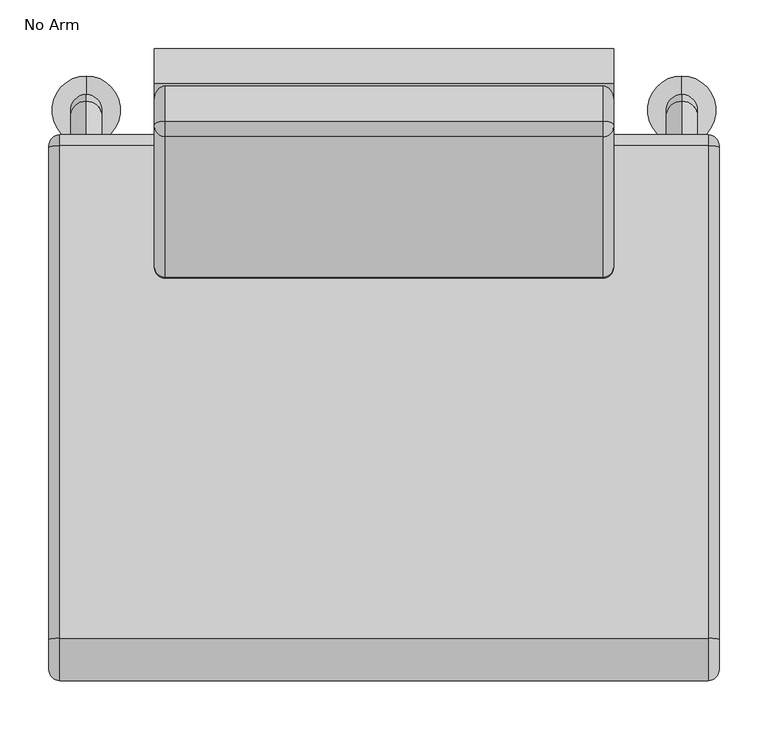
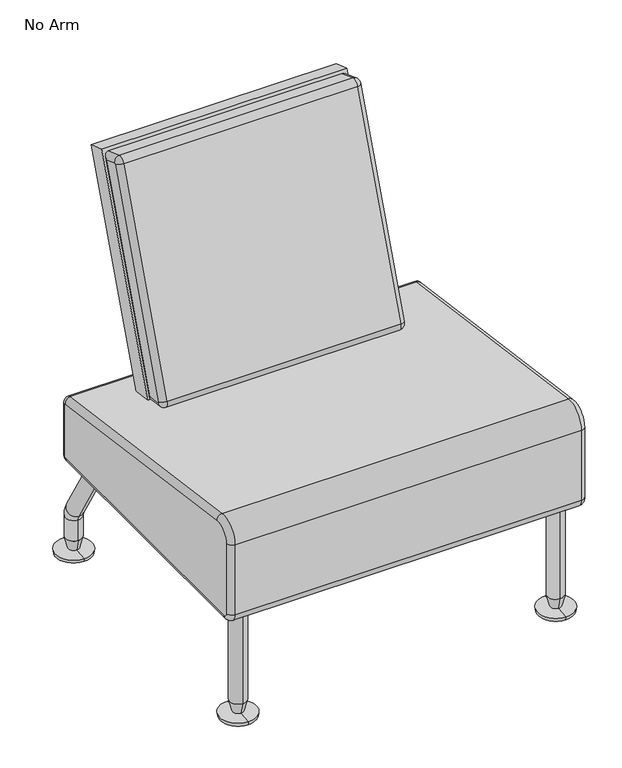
"""IFC4 building model written with IfcOpenShell, lengths in millimetres: furniture geometry, Steelcase Coalesse - Sidewalk - Seating - Collaborative Chair : No Arm."""

from ifc_helpers import new_model, si_unit, point, frame, origin, place, context, project, spatial, polyline, circle_curve, ellipse_curve, trimmed, outline, extrude, source, transform, mapped, element, save
from ifc_brep_helpers import plane_surface, cylinder_surface, revolved_surface, advanced_brep


def no_arm_b8436477(model_context):
    return source(origin(), model_context, "Body", "SolidModel", [
        advanced_brep(
        [(122.9089794, 412.7742549, 335.1190448), (122.9089794, 414.1472627, 333.546102), (122.9089794, 414.1472627, 228.6), (122.9089794, 412.5597627, 227.0125), (122.9089794, -114.4902373, 227.0125), (122.9089794, -122.4277373, 234.95), (122.9089794, -122.4277373, 377.1837519), (122.9089794, -91.7938701, 403.9237811), (808.7089794, -91.7938701, 403.9237811), (808.7089794, -122.4277373, 377.1837519), (808.7089794, -122.4277373, 234.95), (808.7089794, -114.4902373, 227.0125), (808.7089794, 412.5597627, 227.0125), (808.7089794, 414.1472627, 228.6), (808.7089794, 414.1472627, 333.546102), (808.7089794, 412.7742549, 335.1190448), (797.5964794, -90.2924248, 414.9343814), (797.5964794, 414.2757002, 346.1296451), (134.0214794, 414.2757002, 346.1296451), (134.0214794, -90.2924248, 414.9343814), (797.5964794, 425.2597627, 333.546102), (134.0214794, 425.2597627, 333.546102), (797.5964794, 425.2597627, 228.6), (134.0214794, 425.2597627, 228.6), (797.5964794, 412.5597627, 215.9), (134.0214794, 412.5597627, 215.9), (797.5964794, -114.4902373, 215.9), (134.0214794, -114.4902373, 215.9), (797.5964794, -133.5402373, 234.95), (134.0214726, -133.5402373, 234.95), (797.5964794, -133.5402373, 377.1837519), (134.0214794, -133.5402373, 377.1837519)],
        [
            (0, 1, circle_curve(frame((122.9089794, 412.5597627, 333.546102), z_axis=(-1.0, 0.0, 0.0), x_axis=(0.0, 0.13511318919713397, 0.9908301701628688)), 1.5875)),
            (1, 2),
            (2, 3, circle_curve(frame((122.9089794, 412.5597627, 228.6), z_axis=(-1.0, 0.0, 0.0), x_axis=(0.0, 1.0, 0.0)), 1.5875)),
            (3, 4),
            (4, 5, circle_curve(frame((122.9089794, -114.4902373, 234.95), z_axis=(-1.0, 0.0, 0.0), x_axis=(0.0, 0.0, -1.0)), 7.9375)),
            (5, 6),
            (6, 7, circle_curve(frame((122.9089794, -95.4402373, 377.1837519), z_axis=(-1.0, 0.0, 0.0), x_axis=(0.0, -1.0, 0.0)), 26.9875)),
            (7, 0),
            (8, 9, circle_curve(frame((808.7089794, -95.4402373, 377.1837519), z_axis=(1.0, 0.0, 0.0), x_axis=(0.0, 0.13511318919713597, 0.9908301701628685)), 26.9875)),
            (9, 10),
            (10, 11, circle_curve(frame((808.7089794, -114.4902373, 234.95), z_axis=(1.0, 0.0, 0.0), x_axis=(0.0, -1.0, 0.0)), 7.9375)),
            (11, 12),
            (12, 13, circle_curve(frame((808.7089794, 412.5597627, 228.6), z_axis=(1.0, 0.0, 0.0), x_axis=(0.0, 0.0, -1.0)), 1.5875)),
            (13, 14),
            (14, 15, circle_curve(frame((808.7089794, 412.5597627, 333.546102), z_axis=(1.0, 0.0, 0.0), x_axis=(0.0, 1.0, 0.0)), 1.5875)),
            (15, 8),
            (16, 17),
            (17, 18),
            (18, 19),
            (19, 16),
            (17, 20, circle_curve(frame((797.5964794, 412.5597627, 333.546102), z_axis=(-1.0, 0.0, 0.0), x_axis=(0.0, -1.0, 0.0)), 12.7)),
            (20, 21),
            (21, 18, circle_curve(frame((134.0214794, 412.5597627, 333.546102), z_axis=(1.0, 0.0, 0.0), x_axis=(0.0, -1.0, 0.0)), 12.7)),
            (20, 22),
            (22, 23),
            (23, 21),
            (22, 24, circle_curve(frame((797.5964794, 412.5597627, 228.6), z_axis=(-1.0, 0.0, 0.0), x_axis=(0.0, -1.0, 0.0)), 12.7)),
            (24, 25),
            (25, 23, circle_curve(frame((134.0214794, 412.5597627, 228.6), z_axis=(1.0, 0.0, 0.0), x_axis=(0.0, -1.0, 0.0)), 12.7)),
            (24, 26),
            (26, 27),
            (27, 25),
            (26, 28, circle_curve(frame((797.5964794, -114.4902373, 234.95), z_axis=(-1.0, 0.0, 0.0), x_axis=(0.0, -1.0, 0.0)), 19.05)),
            (28, 29),
            (29, 27, circle_curve(frame((134.0214794, -114.4902373, 234.95), z_axis=(1.0, 0.0, 0.0), x_axis=(0.0, -1.0, 0.0)), 19.05)),
            (28, 30),
            (30, 31),
            (31, 29),
            (30, 16, circle_curve(frame((797.5964794, -95.4402373, 377.1837519), z_axis=(-1.0, 0.0, 0.0), x_axis=(0.0, -1.0, 0.0)), 38.1)),
            (19, 31, circle_curve(frame((134.0214794, -95.4402373, 377.1837519), z_axis=(1.0, 0.0, 0.0), x_axis=(0.0, -1.0, 0.0)), 38.1)),
            (30, 9, circle_curve(frame((797.5964794, -122.4277373, 377.1837519), z_axis=(0.0, 0.0, 0.9999999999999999), x_axis=(0.0, -0.9999999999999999, 0.0)), 11.1125)),
            (8, 16, circle_curve(frame((797.5964794, -91.7938701, 403.9237811), z_axis=(0.0, -0.9908301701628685, 0.13511318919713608), x_axis=(0.0, 0.13511318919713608, 0.9908301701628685)), 11.1125)),
            (28, 10, circle_curve(frame((797.5964794, -122.4277373, 234.95), z_axis=(0.0, 0.0, 1.0), x_axis=(0.0, -1.0, 0.0)), 11.1125)),
            (26, 11, circle_curve(frame((797.5964794, -114.4902373, 227.0125), z_axis=(0.0, -1.0, 0.0), x_axis=(0.0, 0.0, -1.0)), 11.1125)),
            (24, 12, circle_curve(frame((797.5964794, 412.5597627, 227.0125), z_axis=(0.0, -1.0, 0.0), x_axis=(0.0, 0.0, -1.0)), 11.1125)),
            (22, 13, circle_curve(frame((797.5964794, 414.1472627, 228.6), z_axis=(0.0, 0.0, -1.0), x_axis=(0.0, 1.0, 0.0)), 11.1125)),
            (20, 14, circle_curve(frame((797.5964794, 414.1472627, 333.546102), z_axis=(0.0, 0.0, -1.0), x_axis=(0.0, 1.0, 0.0)), 11.1125)),
            (17, 15, circle_curve(frame((797.5964794, 412.7742549, 335.1190448), z_axis=(0.0, 0.9908301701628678, -0.1351131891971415), x_axis=(0.0, 0.1351131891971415, 0.9908301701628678)), 11.1125)),
            (21, 1, circle_curve(frame((134.0214794, 414.1472627, 333.546102), z_axis=(0.0, 0.0, 1.0), x_axis=(0.0, -1.0, 0.0)), 11.1125)),
            (0, 18, circle_curve(frame((134.0214794, 412.7742549, 335.1190448), z_axis=(0.0, 0.9908301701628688, -0.13511318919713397), x_axis=(0.0, -0.13511318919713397, -0.9908301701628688)), 11.1125)),
            (23, 2, circle_curve(frame((134.0214794, 414.1472627, 228.6), z_axis=(0.0, 0.0, 1.0), x_axis=(0.0, -1.0, 0.0)), 11.1125)),
            (25, 3, circle_curve(frame((134.0214794, 412.5597627, 227.0125), z_axis=(0.0, 1.0, 0.0), x_axis=(0.0, 0.0, 1.0)), 11.1125)),
            (27, 4, circle_curve(frame((134.0214794, -114.4902373, 227.0125), z_axis=(0.0, 1.0, 0.0), x_axis=(0.0, 0.0, 1.0)), 11.1125)),
            (29, 5, circle_curve(frame((134.0214794, -122.4277373, 234.95), z_axis=(0.0, 0.0, -1.0), x_axis=(0.0, 1.0, 0.0)), 11.1125)),
            (31, 6, circle_curve(frame((134.0214794, -122.4277373, 377.1837519), z_axis=(0.0, 0.0, -1.0), x_axis=(0.0, 1.0, 0.0)), 11.1125)),
            (19, 7, circle_curve(frame((134.0214794, -91.7938701, 403.9237811), z_axis=(0.0, -0.9908301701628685, 0.1351131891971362), x_axis=(0.0, -0.1351131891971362, -0.9908301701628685)), 11.1125)),
        ],
        [
            plane_surface(frame((122.9089794, 564.9597627, 325.5818208), z_axis=(-1.0000000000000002, 0.0, 0.0), x_axis=(0.0, 0.9908301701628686, -0.1351131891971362))),
            plane_surface(frame((808.7089794, 564.9597627, 325.5818208), z_axis=(1.0000000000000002, 0.0, 0.0), x_axis=(0.0, -0.9908301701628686, 0.1351131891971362))),
            plane_surface(frame((122.9089794, -90.2924248, 414.9343814), z_axis=(0.0, 0.1351131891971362, 0.9908301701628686), x_axis=(1.0, 0.0, 0.0))),
            cylinder_surface(frame((808.7089794, 412.5597627, 333.546102), z_axis=(-1.0, 0.0, 0.0), x_axis=(0.0, -1.0, 0.0)), 12.7),
            plane_surface(frame((122.9089794, 425.2597627, 333.546102), z_axis=(0.0, 1.0, 0.0), x_axis=(1.0, 0.0, 0.0))),
            cylinder_surface(frame((808.7089794, 412.5597627, 228.6), z_axis=(-1.0, 0.0, 0.0), x_axis=(0.0, -1.0, 0.0)), 12.7),
            plane_surface(frame((122.9089794, 412.5597627, 215.9), z_axis=(0.0, 0.0, -1.0), x_axis=(1.0, 0.0, 0.0))),
            cylinder_surface(frame((808.7089794, -114.4902373, 234.95), z_axis=(-1.0, 0.0, 0.0), x_axis=(0.0, -1.0, 0.0)), 19.05),
            plane_surface(frame((122.9089794, -133.5402373, 234.95), z_axis=(0.0, -1.0, 0.0), x_axis=(1.0, 0.0, 0.0))),
            cylinder_surface(frame((808.7089794, -95.4402373, 377.1837519), z_axis=(-1.0, 0.0, 0.0), x_axis=(0.0, -1.0, 0.0)), 38.1),
            revolved_surface(trimmed(ellipse_curve(frame((797.5964794, -91.7938701, 403.9237811), z_axis=(0.0, 0.9908301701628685, -0.13511318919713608), x_axis=(0.0, 0.13511318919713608, 0.9908301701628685)), 11.1125, 11.1125), [point((797.5964794, -90.2924248, 414.9343814))], [point((808.7089794, -91.7938701, 403.9237811))], True, "CARTESIAN"), (808.7089794, -95.4402373, 377.1837519), (1.0, 0.0, 0.0)),
            cylinder_surface(frame((797.5964794, -122.4277373, 377.1837519), z_axis=(0.0, 0.0, -1.0), x_axis=(0.0, -1.0, 0.0)), 11.1125),
            revolved_surface(trimmed(ellipse_curve(frame((797.5964794, -122.4277373, 234.95), z_axis=(0.0, 0.0, 1.0), x_axis=(0.0, -1.0, 0.0)), 11.1125, 11.1125), [point((797.5964794, -133.5402373, 234.95))], [point((808.7089794, -122.4277373, 234.95))], True, "CARTESIAN"), (808.7089794, -114.4902373, 234.95), (1.0, 0.0, 0.0)),
            cylinder_surface(frame((797.5964794, -114.4902373, 227.0125), z_axis=(0.0, 1.0, 0.0), x_axis=(0.0, 0.0, -1.0)), 11.1125),
            revolved_surface(trimmed(ellipse_curve(frame((797.5964794, 412.5597627, 227.0125), z_axis=(0.0, -1.0, 0.0), x_axis=(0.0, 0.0, -1.0)), 11.1125, 11.1125), [point((797.5964794, 412.5597627, 215.9))], [point((808.7089794, 412.5597627, 227.0125))], True, "CARTESIAN"), (808.7089794, 412.5597627, 228.6), (1.0, 0.0, 0.0)),
            cylinder_surface(frame((797.5964794, 414.1472627, 228.6), z_axis=(0.0, 0.0, 1.0), x_axis=(0.0, 1.0, 0.0)), 11.1125),
            revolved_surface(trimmed(ellipse_curve(frame((797.5964794, 414.1472627, 333.546102), z_axis=(0.0, 0.0, -1.0), x_axis=(0.0, 1.0, 0.0)), 11.1125, 11.1125), [point((797.5964794, 425.2597627, 333.546102))], [point((808.7089794, 414.1472627, 333.546102))], True, "CARTESIAN"), (808.7089794, 412.5597627, 333.546102), (1.0, 0.0, 0.0)),
            cylinder_surface(frame((797.5964794, 412.7742549, 335.1190448), z_axis=(0.0, -0.9908301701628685, 0.13511318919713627), x_axis=(0.0, 0.13511318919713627, 0.9908301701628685)), 11.1125),
            revolved_surface(trimmed(ellipse_curve(frame((134.0214794, 412.7742549, 335.1190448), z_axis=(0.0, -0.9908301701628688, 0.13511318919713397), x_axis=(0.0, -0.13511318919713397, -0.9908301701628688)), 11.1125, 11.1125), [point((134.0214794, 414.2757002, 346.1296451))], [point((122.9089794, 412.7742549, 335.1190448))], True, "CARTESIAN"), (122.9089794, 412.5597627, 333.546102), (-1.0, 0.0, 0.0)),
            cylinder_surface(frame((134.0214794, 414.1472627, 333.546102), z_axis=(0.0, 0.0, -1.0), x_axis=(0.0, -1.0, 0.0)), 11.1125),
            revolved_surface(trimmed(ellipse_curve(frame((134.0214794, 414.1472627, 228.6), z_axis=(0.0, 0.0, 1.0), x_axis=(0.0, -1.0, 0.0)), 11.1125, 11.1125), [point((134.0214794, 425.2597627, 228.6))], [point((122.9089794, 414.1472627, 228.6))], True, "CARTESIAN"), (122.9089794, 412.5597627, 228.6), (-1.0, 0.0, 0.0)),
            cylinder_surface(frame((134.0214794, 412.5597627, 227.0125), z_axis=(0.0, -1.0, 0.0), x_axis=(0.0, 0.0, 1.0)), 11.1125),
            revolved_surface(trimmed(ellipse_curve(frame((134.0214794, -114.4902373, 227.0125), z_axis=(0.0, 1.0, 0.0), x_axis=(0.0, 0.0, 1.0)), 11.1125, 11.1125), [point((134.0214794, -114.4902373, 215.9))], [point((122.9089794, -114.4902373, 227.0125))], True, "CARTESIAN"), (122.9089794, -114.4902373, 234.95), (-1.0, 0.0, 0.0)),
            cylinder_surface(frame((134.0214794, -122.4277373, 234.95), z_axis=(0.0, 0.0, 1.0), x_axis=(0.0, 1.0, 0.0)), 11.1125),
            revolved_surface(trimmed(ellipse_curve(frame((134.0214794, -122.4277373, 377.1837519), z_axis=(0.0, 0.0, -1.0), x_axis=(0.0, 1.0, 0.0)), 11.1125, 11.1125), [point((134.0214794, -133.5402373, 377.1837519))], [point((122.9089794, -122.4277373, 377.1837519))], True, "CARTESIAN"), (122.9089794, -95.4402373, 377.1837519), (-1.0, 0.0, 0.0)),
            cylinder_surface(frame((134.0214794, -91.7938701, 403.9237811), z_axis=(0.0, 0.9908301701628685, -0.1351131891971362), x_axis=(0.0, -0.1351131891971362, -0.9908301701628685)), 11.1125),
        ],
        [
            (0, [[1, 2, 3, 4, 5, 6, 7, 8]]),
            (1, [[9, 10, 11, 12, 13, 14, 15, 16]]),
            (2, [[17, 18, 19, 20]]),
            (3, [[21, 22, 23, -18]]),
            (4, [[24, 25, 26, -22]]),
            (5, [[27, 28, 29, -25]]),
            (6, [[30, 31, 32, -28]]),
            (7, [[33, 34, 35, -31]]),
            (8, [[36, 37, 38, -34]]),
            (9, [[39, -20, 40, -37]]),
            (10, [[41, -9, 42, -39]]),
            (11, [[-41, -36, 43, -10]]),
            (12, [[-43, -33, 44, -11]]),
            (13, [[-44, -30, 45, -12]]),
            (14, [[-45, -27, 46, -13]]),
            (15, [[-46, -24, 47, -14]]),
            (16, [[-47, -21, 48, -15]]),
            (17, [[-42, -16, -48, -17]]),
            (18, [[49, -1, 50, -23]]),
            (19, [[-49, -26, 51, -2]]),
            (20, [[-51, -29, 52, -3]]),
            (21, [[-52, -32, 53, -4]]),
            (22, [[-53, -35, 54, -5]]),
            (23, [[-54, -38, 55, -6]]),
            (24, [[-55, -40, 56, -7]]),
            (25, [[-50, -8, -56, -19]]),
        ],
    ),
        advanced_brep(
        [(230.8589764, 435.601958, 772.4897206), (230.8589764, 460.9619318, 763.2594642), (230.8589764, 317.9995565, 370.4735514), (230.8589764, 290.9791404, 374.1581532), (230.8589764, 289.7018705, 376.274053), (230.8589764, 433.56724, 771.5409151), (700.7589825, 289.7018705, 376.274053), (700.7589825, 290.9791404, 374.1581532), (700.7589825, 317.9995565, 370.4735514), (700.7589825, 460.9619318, 763.2594642), (700.7589825, 435.601958, 772.4897206), (700.7589825, 433.56724, 771.5409151), (241.9714764, 475.2049673, 769.9011067), (241.9714764, 439.4026498, 782.9320574), (689.6464825, 439.4026498, 782.9320574), (689.6464825, 475.2049673, 769.9011067), (241.9714764, 325.3770207, 358.2521909), (689.6464825, 325.3770207, 358.2521909), (241.9714764, 289.477695, 363.1475529), (689.6464825, 289.477695, 363.1475529), (241.9714764, 279.2595362, 380.0747518), (689.6464825, 279.2595362, 380.0747518), (241.9714764, 423.1249057, 775.3416139), (689.6464825, 423.1249057, 775.3416139)],
        [
            (0, 1),
            (1, 2),
            (2, 3),
            (3, 4, circle_curve(frame((230.8589764, 291.1936325, 375.7310961), z_axis=(-1.0, 0.0, 0.0), x_axis=(0.0, -0.13511318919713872, -0.9908301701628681)), 1.5875)),
            (4, 5),
            (5, 0, circle_curve(frame((230.8589764, 435.059002, 770.9979582), z_axis=(-1.0, 0.0, 0.0), x_axis=(0.0, -0.9396926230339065, 0.3420201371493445)), 1.5875)),
            (6, 7, circle_curve(frame((700.7589825, 291.1936325, 375.7310961), z_axis=(1.0, 0.0, 0.0), x_axis=(0.0, -0.9396926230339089, 0.3420201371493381)), 1.5875)),
            (7, 8),
            (8, 9),
            (9, 10),
            (10, 11, circle_curve(frame((700.7589825, 435.059002, 770.9979582), z_axis=(1.0, 0.0, 0.0), x_axis=(0.0, 0.34201951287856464, 0.939692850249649)), 1.5875)),
            (11, 6),
            (12, 13),
            (13, 14),
            (14, 15),
            (15, 12),
            (16, 12),
            (15, 17),
            (17, 16),
            (18, 16),
            (17, 19),
            (19, 18),
            (20, 18, circle_curve(frame((241.9714764, 291.1936325, 375.7310961), z_axis=(1.0, 0.0, 0.0), x_axis=(0.0, -1.0, 0.0)), 12.7)),
            (19, 21, circle_curve(frame((689.6464825, 291.1936325, 375.7310961), z_axis=(-1.0, 0.0, 0.0), x_axis=(0.0, -1.0, 0.0)), 12.7)),
            (21, 20),
            (22, 20),
            (21, 23),
            (23, 22),
            (13, 22, circle_curve(frame((241.9714764, 435.059002, 770.9979582), z_axis=(1.0, 0.0, 0.0), x_axis=(0.0, -1.0, 0.0)), 12.7)),
            (23, 14, circle_curve(frame((689.6464825, 435.059002, 770.9979582), z_axis=(-1.0, 0.0, 0.0), x_axis=(0.0, -1.0, 0.0)), 12.7)),
            (12, 1, ellipse_curve(frame((241.9714764, 460.9619318, 763.2594642), z_axis=(0.0, -0.4226185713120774, 0.9063076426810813), x_axis=(0.0, 0.9063076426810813, 0.4226185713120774)), 15.7154534, 11.1125)),
            (0, 13, circle_curve(frame((241.9714764, 435.601958, 772.4897206), z_axis=(0.0, 0.9396928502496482, -0.34201951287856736), x_axis=(0.0, -0.3420195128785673, -0.939692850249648)), 11.1125)),
            (16, 2, ellipse_curve(frame((241.9714764, 317.9995565, 370.4735514), z_axis=(0.0, 0.8561100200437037, 0.5167936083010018), x_axis=(0.0, 0.5167936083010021, -0.8561100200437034)), 14.2754555, 11.1125)),
            (18, 3, circle_curve(frame((241.9714764, 290.9791404, 374.1581532), z_axis=(0.0, 0.9908301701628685, -0.13511318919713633), x_axis=(0.0, 0.13511318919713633, 0.9908301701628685)), 11.1125)),
            (20, 4, circle_curve(frame((241.9714764, 289.7018705, 376.274053), z_axis=(0.0, -0.3420201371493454, -0.9396926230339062), x_axis=(0.0, 0.9396926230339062, -0.3420201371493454)), 11.1125)),
            (22, 5, circle_curve(frame((241.9714764, 433.56724, 771.5409151), z_axis=(0.0, -0.34202013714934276, -0.9396926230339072), x_axis=(0.0, 0.9396926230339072, -0.34202013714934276)), 11.1125)),
            (19, 7, circle_curve(frame((689.6464825, 290.9791404, 374.1581532), z_axis=(0.0, -0.9908301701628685, 0.13511318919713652), x_axis=(0.0, -0.13511318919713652, -0.9908301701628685)), 11.1125)),
            (6, 21, circle_curve(frame((689.6464825, 289.7018705, 376.274053), z_axis=(0.0, -0.34202013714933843, -0.9396926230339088), x_axis=(0.0, -0.9396926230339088, 0.34202013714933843)), 11.1125)),
            (17, 8, ellipse_curve(frame((689.6464825, 317.9995565, 370.4735514), z_axis=(0.0, -0.8561100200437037, -0.5167936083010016), x_axis=(0.0, 0.5167936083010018, -0.8561100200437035)), 14.2754555, 11.1125)),
            (15, 9, ellipse_curve(frame((689.6464825, 460.9619318, 763.2594642), z_axis=(0.0, 0.4226185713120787, -0.9063076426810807), x_axis=(0.0, 0.9063076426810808, 0.42261857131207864)), 15.7154534, 11.1125)),
            (14, 10, circle_curve(frame((689.6464825, 435.601958, 772.4897206), z_axis=(0.0, 0.9396928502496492, -0.3420195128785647), x_axis=(0.0, 0.34201951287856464, 0.939692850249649)), 11.1125)),
            (23, 11, circle_curve(frame((689.6464825, 433.56724, 771.5409151), z_axis=(0.0, 0.34202013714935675, 0.939692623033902), x_axis=(0.0, -0.939692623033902, 0.34202013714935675)), 11.1125)),
        ],
        [
            plane_surface(frame((230.8589764, 476.9677554, 769.2595057), z_axis=(-1.0, 0.0, 0.0), x_axis=(0.0, 0.9396928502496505, -0.3420195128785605))),
            plane_surface(frame((700.7589825, 476.9677554, 769.2595057), z_axis=(1.0, 0.0, 0.0), x_axis=(0.0, -0.9396928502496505, 0.3420195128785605))),
            plane_surface(frame((230.8589764, 439.4026498, 782.9320574), z_axis=(0.0, 0.3420195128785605, 0.9396928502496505), x_axis=(1.0, 0.0, 0.0))),
            plane_surface(frame((230.8589764, 475.2049673, 769.9011067), z_axis=(0.0, 0.939692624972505, -0.34202013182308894), x_axis=(1.0, 0.0, 0.0))),
            plane_surface(frame((230.8589764, 325.3770207, 358.2521909), z_axis=(0.0, -0.13511318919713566, -0.9908301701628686), x_axis=(1.0, 0.0, 0.0))),
            cylinder_surface(frame((700.7589825, 291.1936325, 375.7310961), z_axis=(-1.0, 0.0, 0.0), x_axis=(0.0, -1.0, 0.0)), 12.7),
            plane_surface(frame((230.8589764, 279.2595362, 380.0747518), z_axis=(0.0, -0.9396926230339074, 0.3420201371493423), x_axis=(1.0, 0.0, 0.0))),
            cylinder_surface(frame((700.7589825, 435.059002, 770.9979582), z_axis=(-1.0, 0.0, 0.0), x_axis=(0.0, -1.0, 0.0)), 12.7),
            cylinder_surface(frame((241.9714764, 435.601958, 772.4897206), z_axis=(0.0, 0.939692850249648, -0.3420195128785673), x_axis=(0.0, -0.3420195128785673, -0.939692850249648)), 11.1125),
            cylinder_surface(frame((241.9714764, 464.762633, 773.7018054), z_axis=(0.0, -0.3420201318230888, -0.939692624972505), x_axis=(0.0, -0.939692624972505, 0.3420201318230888)), 11.1125),
            cylinder_surface(frame((241.9714764, 326.878466, 369.2627912), z_axis=(0.0, -0.9908301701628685, 0.13511318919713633), x_axis=(0.0, 0.13511318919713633, 0.9908301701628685)), 11.1125),
            revolved_surface(trimmed(ellipse_curve(frame((241.9714764, 290.9791404, 374.1581532), z_axis=(0.0, 0.9908301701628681, -0.1351131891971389), x_axis=(0.0, 0.1351131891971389, 0.9908301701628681)), 11.1125, 11.1125), [point((241.9714764, 289.477695, 363.1475529))], [point((230.8589764, 290.9791404, 374.1581532))], True, "CARTESIAN"), (230.8589764, 291.1936325, 375.7310961), (-1.0, 0.0, 0.0)),
            cylinder_surface(frame((241.9714764, 289.7018705, 376.274053), z_axis=(0.0, 0.34202013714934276, 0.9396926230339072), x_axis=(0.0, 0.9396926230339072, -0.34202013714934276)), 11.1125),
            revolved_surface(trimmed(ellipse_curve(frame((241.9714764, 433.56724, 771.5409151), z_axis=(0.0, -0.342020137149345, -0.9396926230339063), x_axis=(0.0, 0.9396926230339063, -0.342020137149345)), 11.1125, 11.1125), [point((241.9714764, 423.1249057, 775.3416139))], [point((230.8589764, 433.56724, 771.5409151))], True, "CARTESIAN"), (230.8589764, 435.059002, 770.9979582), (-1.0, 0.0, 0.0)),
            revolved_surface(trimmed(ellipse_curve(frame((689.6464825, 289.7018705, 376.274053), z_axis=(0.0, 0.34202013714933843, 0.9396926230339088), x_axis=(0.0, -0.9396926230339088, 0.34202013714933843)), 11.1125, 11.1125), [point((689.6464825, 279.2595362, 380.0747518))], [point((700.7589825, 289.7018705, 376.274053))], True, "CARTESIAN"), (700.7589825, 291.1936325, 375.7310961), (1.0, 0.0, 0.0)),
            cylinder_surface(frame((689.6464825, 290.9791404, 374.1581532), z_axis=(0.0, 0.9908301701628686, -0.1351131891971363), x_axis=(0.0, -0.1351131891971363, -0.9908301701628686)), 11.1125),
            cylinder_surface(frame((689.6464825, 314.9346864, 362.0528896), z_axis=(0.0, 0.34202013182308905, 0.9396926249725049), x_axis=(0.0, 0.9396926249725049, -0.34202013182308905)), 11.1125),
            cylinder_surface(frame((689.6464825, 471.4042755, 759.4587699), z_axis=(0.0, -0.939692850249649, 0.34201951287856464), x_axis=(0.0, 0.34201951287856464, 0.939692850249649)), 11.1125),
            revolved_surface(trimmed(ellipse_curve(frame((689.6464825, 435.601958, 772.4897206), z_axis=(0.0, 0.939692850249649, -0.3420195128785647), x_axis=(0.0, 0.3420195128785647, 0.939692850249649)), 11.1125, 11.1125), [point((689.6464825, 439.4026498, 782.9320574))], [point((700.7589825, 435.601958, 772.4897206))], True, "CARTESIAN"), (700.7589825, 435.059002, 770.9979582), (1.0, 0.0, 0.0)),
            cylinder_surface(frame((689.6464825, 433.56724, 771.5409151), z_axis=(0.0, -0.34202013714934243, -0.9396926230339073), x_axis=(0.0, -0.9396926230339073, 0.34202013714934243)), 11.1125),
        ],
        [
            (0, [[1, 2, 3, 4, 5, 6]]),
            (1, [[7, 8, 9, 10, 11, 12]]),
            (2, [[13, 14, 15, 16]]),
            (3, [[17, -16, 18, 19]]),
            (4, [[20, -19, 21, 22]]),
            (5, [[23, -22, 24, 25]]),
            (6, [[26, -25, 27, 28]]),
            (7, [[29, -28, 30, -14]]),
            (8, [[31, -1, 32, -13]]),
            (9, [[-31, -17, 33, -2]]),
            (10, [[-33, -20, 34, -3]]),
            (11, [[-34, -23, 35, -4]]),
            (12, [[-35, -26, 36, -5]]),
            (13, [[-32, -6, -36, -29]]),
            (14, [[37, -7, 38, -24]]),
            (15, [[-37, -21, 39, -8]]),
            (16, [[-39, -18, 40, -9]]),
            (17, [[-40, -15, 41, -10]]),
            (18, [[-41, -30, 42, -11]]),
            (19, [[-38, -12, -42, -27]]),
        ],
    ),
        extrude(outline(polyline([(513.2448372, 763.0177625), (364.0049937, 352.9847407), (325.3770207, 358.2521909), (477.4425175, 776.0487255), (513.2448372, 763.0177625)])), frame((230.8589764, 0.0, 0.0), z_axis=(1.0, 0.0, 0.0), x_axis=(0.0, 1.0, 0.0)), (0.0, 0.0, 1.0), 469.9000061),
        advanced_brep(
        [(770.5801534, 450.6597627, 0.0), (770.5801534, 484.5264293, 0.0), (770.5801534, 416.793096, 0.0), (770.5801534, 434.7847627, 31.75), (770.5801534, 466.5347627, 31.75), (770.5801534, 450.6597627, 31.75), (770.5801534, 440.7764092, 8.5001207), (770.5801534, 460.5431161, 8.5001207), (770.5801534, 415.7347627, 6.35), (770.5801534, 485.5847627, 6.35)],
        [
            (0, 1),
            (1, 2, circle_curve(frame((770.5801534, 450.6597627, 0.0), z_axis=(0.0, 0.0, -1.0), x_axis=(0.0, 1.0, 0.0)), 33.8666667)),
            (2, 0),
            (2, 1, circle_curve(frame((770.5801534, 450.6597627, 0.0), z_axis=(0.0, 0.0, -1.0), x_axis=(0.0, 1.0, 0.0)), 33.8666667)),
            (3, 4, circle_curve(frame((770.5801534, 450.6597627, 31.75), z_axis=(0.0, 0.0, 1.0), x_axis=(0.0, 1.0, 0.0)), 15.875)),
            (4, 5),
            (5, 3),
            (4, 3, circle_curve(frame((770.5801534, 450.6597627, 31.75), z_axis=(0.0, 0.0, 1.0), x_axis=(0.0, 1.0, 0.0)), 15.875)),
            (6, 7, circle_curve(frame((770.5801534, 450.6597627, 8.5001207), z_axis=(0.0, 0.0, 1.0), x_axis=(0.0, 1.0, 0.0)), 9.8833534)),
            (7, 4),
            (3, 6),
            (7, 6, circle_curve(frame((770.5801534, 450.6597627, 8.5001207), z_axis=(0.0, 0.0, 1.0), x_axis=(0.0, 1.0, 0.0)), 9.8833534)),
            (8, 9, circle_curve(frame((770.5801534, 450.6597627, 6.35), z_axis=(0.0, 0.0, 1.0), x_axis=(0.0, 1.0, 0.0)), 34.925)),
            (9, 7),
            (6, 8),
            (9, 8, circle_curve(frame((770.5801534, 450.6597627, 6.35), z_axis=(0.0, 0.0, 1.0), x_axis=(0.0, 1.0, 0.0)), 34.925)),
            (1, 9),
            (8, 2),
        ],
        [
            plane_surface(frame((770.5801534, 450.6597627, 0.0), z_axis=(0.0, 0.0, -1.0), x_axis=(0.0, 1.0, 0.0))),
            plane_surface(frame((770.5801534, 450.6597627, 31.75), z_axis=(0.0, 0.0, 1.0), x_axis=(0.0, 1.0, 0.0))),
            revolved_surface(polyline([(770.5801534, 466.5347627, 31.75), (770.5801534, 460.5431161, 8.5001207)]), (770.5801534, 450.6597627, -31.75), (0.0, 0.0, -1.0)),
            revolved_surface(polyline([(770.5801534, 460.5431161, 8.5001207), (770.5801534, 485.5847627, 6.35)]), (770.5801534, 450.6597627, -31.75), (0.0, 0.0, -1.0)),
            revolved_surface(polyline([(770.5801534, 485.5847627, 6.35), (770.5801534, 484.5264293, 0.0)]), (770.5801534, 450.6597627, -31.75), (0.0, 0.0, -1.0)),
        ],
        [
            (0, [[1, 2, 3]]),
            (0, [[-3, 4, -1]]),
            (1, [[5, 6, 7]]),
            (1, [[8, -7, -6]]),
            (2, [[9, 10, -5, 11]]),
            (2, [[12, -11, -8, -10]]),
            (3, [[13, 14, -9, 15]]),
            (3, [[16, -15, -12, -14]]),
            (4, [[-2, 17, -13, 18]]),
            (4, [[-4, -18, -16, -17]]),
        ],
    ),
        advanced_brep(
        [(770.5801534, 434.7847627, 31.75), (770.5801534, 466.5347627, 31.75), (770.5801534, 434.7847627, 73.4363994), (770.5801534, 466.5347627, 73.4363994), (770.5801534, 459.6905974, 98.4722611), (770.5801534, 432.3561879, 82.3200923), (770.5801534, 353.4225241, 215.8999916), (770.5801534, 380.7569336, 232.0521604)],
        [
            (0, 1, circle_curve(frame((770.5801534, 450.6597627, 31.75), z_axis=(0.0, 0.0, -1.0), x_axis=(0.0, 1.0, 0.0)), 15.875)),
            (1, 0, circle_curve(frame((770.5801534, 450.6597627, 31.75), z_axis=(0.0, 0.0, -1.0), x_axis=(0.0, 1.0, 0.0)), 15.875)),
            (0, 2),
            (2, 3, circle_curve(frame((770.5801534, 450.6597627, 73.4363994), z_axis=(0.0, 0.0, -1.0), x_axis=(0.0, 1.0, 0.0)), 15.875)),
            (3, 1),
            (3, 2, circle_curve(frame((770.5801534, 450.6597627, 73.4363994), z_axis=(0.0, 0.0, -1.0), x_axis=(0.0, 1.0, 0.0)), 15.875)),
            (4, 3, circle_curve(frame((770.5801534, 417.3222627, 73.4363994), z_axis=(-1.0, 0.0, 0.0), x_axis=(0.0, 1.0, 0.0)), 49.2125)),
            (2, 5, circle_curve(frame((770.5801534, 417.3222627, 73.4363994), z_axis=(1.0, 0.0, 0.0), x_axis=(0.0, 1.0, 0.0)), 17.4625)),
            (5, 4, circle_curve(frame((770.5801534, 446.0233926, 90.3961767), z_axis=(0.0, 0.5087297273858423, -0.8609262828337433), x_axis=(0.0, 0.8609262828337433, 0.5087297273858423)), 15.875)),
            (4, 5, circle_curve(frame((770.5801534, 446.0233926, 90.3961767), z_axis=(0.0, 0.508729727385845, -0.8609262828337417), x_axis=(0.0, 0.8609262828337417, 0.508729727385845)), 15.875)),
            (6, 7, circle_curve(frame((770.5801534, 367.0897288, 223.976076), z_axis=(0.0, -0.5087297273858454, 0.8609262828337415), x_axis=(0.0, 0.8609262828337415, 0.5087297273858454)), 15.875)),
            (7, 6, circle_curve(frame((770.5801534, 367.0897288, 223.976076), z_axis=(0.0, -0.5087297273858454, 0.8609262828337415), x_axis=(0.0, 0.8609262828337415, 0.5087297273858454)), 15.875)),
            (5, 6),
            (7, 4),
        ],
        [
            plane_surface(frame((770.5801534, 450.6597627, 31.75), z_axis=(0.0, 0.0, -1.0), x_axis=(-1.0, 0.0, 0.0))),
            cylinder_surface(frame((770.5801534, 450.6597627, 31.75), z_axis=(0.0, 0.0, -1.0), x_axis=(0.0, 1.0, 0.0)), 15.875),
            revolved_surface(trimmed(ellipse_curve(frame((770.5801534, 450.6597627, 73.4363994), z_axis=(0.0, 0.0, -1.0), x_axis=(0.0, 1.0, 0.0)), 15.875, 15.875), [point((770.5801534, 434.7847627, 73.4363994))], [point((770.5801534, 466.5347627, 73.4363994))], True, "CARTESIAN"), (770.5801534, 417.3222627, 73.4363994), (1.0, 0.0, 0.0)),
            revolved_surface(trimmed(ellipse_curve(frame((770.5801534, 450.6597627, 73.4363994), z_axis=(0.0, 0.0, -1.0), x_axis=(0.0, 1.0, 0.0)), 15.875, 15.875), [point((770.5801534, 466.5347627, 73.4363994))], [point((770.5801534, 434.7847627, 73.4363994))], True, "CARTESIAN"), (770.5801534, 417.3222627, 73.4363994), (1.0, 0.0, 0.0)),
            plane_surface(frame((770.5801534, 367.0897288, 223.976076), z_axis=(0.0, -0.5087297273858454, 0.8609262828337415), x_axis=(-1.0, 0.0, 0.0))),
            cylinder_surface(frame((770.5801534, 446.0233926, 90.3961767), z_axis=(0.0, 0.5087297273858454, -0.8609262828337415), x_axis=(0.0, 0.8609262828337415, 0.5087297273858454)), 15.875),
        ],
        [
            (0, [[1, 2]]),
            (1, [[-1, 3, 4, 5]]),
            (1, [[-2, -5, 6, -3]]),
            (2, [[7, -4, 8, 9]]),
            (3, [[-8, -6, -7, 10]]),
            (4, [[11, 12]]),
            (5, [[-9, 13, -12, 14]]),
            (5, [[-10, -14, -11, -13]]),
        ],
    ),
        advanced_brep(
        [(161.0378055, 415.7347627, 6.35), (161.0378055, 485.5847627, 6.35), (161.0378055, 484.5264293, 0.0), (161.0378055, 416.793096, 0.0), (161.0378055, 440.7764092, 8.5001207), (161.0378055, 460.5431161, 8.5001207), (161.0378055, 434.7847627, 31.75), (161.0378055, 466.5347627, 31.75), (161.0378055, 450.6597627, 31.75), (161.0378055, 450.6597627, 0.0)],
        [
            (0, 1, circle_curve(frame((161.0378055, 450.6597627, 6.35), z_axis=(0.0, 0.0, -1.0), x_axis=(0.0, 1.0, 0.0)), 34.925)),
            (1, 2),
            (2, 3, circle_curve(frame((161.0378055, 450.6597627, 0.0), z_axis=(0.0, 0.0, 1.0), x_axis=(0.0, 1.0, 0.0)), 33.8666667)),
            (3, 0),
            (1, 0, circle_curve(frame((161.0378055, 450.6597627, 6.35), z_axis=(0.0, 0.0, -1.0), x_axis=(0.0, 1.0, 0.0)), 34.925)),
            (3, 2, circle_curve(frame((161.0378055, 450.6597627, 0.0), z_axis=(0.0, 0.0, 1.0), x_axis=(0.0, 1.0, 0.0)), 33.8666667)),
            (4, 5, circle_curve(frame((161.0378055, 450.6597627, 8.5001207), z_axis=(0.0, 0.0, -1.0), x_axis=(0.0, 1.0, 0.0)), 9.8833534)),
            (5, 1),
            (0, 4),
            (5, 4, circle_curve(frame((161.0378055, 450.6597627, 8.5001207), z_axis=(0.0, 0.0, -1.0), x_axis=(0.0, 1.0, 0.0)), 9.8833534)),
            (6, 7, circle_curve(frame((161.0378055, 450.6597627, 31.75), z_axis=(0.0, 0.0, -1.0), x_axis=(0.0, 1.0, 0.0)), 15.875)),
            (7, 5),
            (4, 6),
            (7, 6, circle_curve(frame((161.0378055, 450.6597627, 31.75), z_axis=(0.0, 0.0, -1.0), x_axis=(0.0, 1.0, 0.0)), 15.875)),
            (8, 7),
            (6, 8),
            (2, 9),
            (9, 3),
        ],
        [
            revolved_surface(polyline([(161.0378055, 484.5264293, 0.0), (161.0378055, 485.5847627, 6.35)]), (161.0378055, 450.6597627, -31.75), (0.0, 0.0, 1.0)),
            revolved_surface(polyline([(161.0378055, 485.5847627, 6.35), (161.0378055, 460.5431161, 8.5001207)]), (161.0378055, 450.6597627, -31.75), (0.0, 0.0, 1.0)),
            revolved_surface(polyline([(161.0378055, 460.5431161, 8.5001207), (161.0378055, 466.5347627, 31.75)]), (161.0378055, 450.6597627, -31.75), (0.0, 0.0, 1.0)),
            plane_surface(frame((161.0378055, 450.6597627, 31.75), z_axis=(0.0, 0.0, 1.0), x_axis=(0.0, 1.0, 0.0))),
            plane_surface(frame((161.0378055, 450.6597627, 0.0), z_axis=(0.0, 0.0, -1.0), x_axis=(0.0, 1.0, 0.0))),
        ],
        [
            (0, [[1, 2, 3, 4]]),
            (0, [[5, -4, 6, -2]]),
            (1, [[7, 8, -1, 9]]),
            (1, [[10, -9, -5, -8]]),
            (2, [[11, 12, -7, 13]]),
            (2, [[14, -13, -10, -12]]),
            (3, [[15, -11, 16]]),
            (3, [[-16, -14, -15]]),
            (4, [[-3, 17, 18]]),
            (4, [[-6, -18, -17]]),
        ],
    ),
        advanced_brep(
        [(161.0378055, 466.5347627, 31.75), (161.0378055, 434.7847627, 31.75), (161.0378055, 466.5347627, 73.4363994), (161.0378055, 434.7847627, 73.4363994), (161.0378055, 432.3561879, 82.3200923), (161.0378055, 459.6905974, 98.4722611), (161.0378055, 380.7569336, 232.0521604), (161.0378055, 353.4225241, 215.8999916)],
        [
            (0, 1, circle_curve(frame((161.0378055, 450.6597627, 31.75), z_axis=(0.0, 0.0, -1.0), x_axis=(0.0, -1.0, 0.0)), 15.875)),
            (1, 0, circle_curve(frame((161.0378055, 450.6597627, 31.75), z_axis=(0.0, 0.0, -1.0), x_axis=(0.0, -1.0, 0.0)), 15.875)),
            (0, 2),
            (2, 3, circle_curve(frame((161.0378055, 450.6597627, 73.4363994), z_axis=(0.0, 0.0, -1.0), x_axis=(0.0, -1.0, 0.0)), 15.875)),
            (3, 1),
            (3, 2, circle_curve(frame((161.0378055, 450.6597627, 73.4363994), z_axis=(0.0, 0.0, -1.0), x_axis=(0.0, -1.0, 0.0)), 15.875)),
            (4, 3, circle_curve(frame((161.0378055, 417.3222627, 73.4363994), z_axis=(-1.0, 0.0, 0.0), x_axis=(0.0, 1.0, 0.0)), 17.4625)),
            (2, 5, circle_curve(frame((161.0378055, 417.3222627, 73.4363994), z_axis=(1.0, 0.0, 0.0), x_axis=(0.0, 1.0, 0.0)), 49.2125)),
            (5, 4, circle_curve(frame((161.0378055, 446.0233926, 90.3961767), z_axis=(0.0, 0.5087297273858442, -0.8609262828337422), x_axis=(0.0, -0.8609262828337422, -0.5087297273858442)), 15.875)),
            (4, 5, circle_curve(frame((161.0378055, 446.0233926, 90.3961767), z_axis=(0.0, 0.5087297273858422, -0.8609262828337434), x_axis=(0.0, -0.8609262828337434, -0.5087297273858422)), 15.875)),
            (6, 7, circle_curve(frame((161.0378055, 367.0897288, 223.976076), z_axis=(0.0, -0.5087297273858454, 0.8609262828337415), x_axis=(0.0, -0.8609262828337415, -0.5087297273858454)), 15.875)),
            (7, 6, circle_curve(frame((161.0378055, 367.0897288, 223.976076), z_axis=(0.0, -0.5087297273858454, 0.8609262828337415), x_axis=(0.0, -0.8609262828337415, -0.5087297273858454)), 15.875)),
            (5, 6),
            (7, 4),
        ],
        [
            plane_surface(frame((161.0378055, 450.6597627, 31.75), z_axis=(0.0, 0.0, -1.0), x_axis=(1.0, 0.0, 0.0))),
            cylinder_surface(frame((161.0378055, 450.6597627, 31.75), z_axis=(0.0, 0.0, -1.0), x_axis=(0.0, -1.0, 0.0)), 15.875),
            revolved_surface(trimmed(ellipse_curve(frame((161.0378055, 450.6597627, 73.4363994), z_axis=(0.0, 0.0, -1.0), x_axis=(0.0, -1.0, 0.0)), 15.875, 15.875), [point((161.0378055, 466.5347627, 73.4363994))], [point((161.0378055, 434.7847627, 73.4363994))], True, "CARTESIAN"), (161.0378055, 417.3222627, 73.4363994), (1.0, 0.0, 0.0)),
            revolved_surface(trimmed(ellipse_curve(frame((161.0378055, 450.6597627, 73.4363994), z_axis=(0.0, 0.0, -1.0), x_axis=(0.0, -1.0, 0.0)), 15.875, 15.875), [point((161.0378055, 434.7847627, 73.4363994))], [point((161.0378055, 466.5347627, 73.4363994))], True, "CARTESIAN"), (161.0378055, 417.3222627, 73.4363994), (1.0, 0.0, 0.0)),
            plane_surface(frame((161.0378055, 367.0897288, 223.976076), z_axis=(0.0, -0.5087297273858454, 0.8609262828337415), x_axis=(1.0, 0.0, 0.0))),
            cylinder_surface(frame((161.0378055, 446.0233926, 90.3961767), z_axis=(0.0, 0.5087297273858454, -0.8609262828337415), x_axis=(0.0, -0.8609262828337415, -0.5087297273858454)), 15.875),
        ],
        [
            (0, [[1, 2]]),
            (1, [[-1, 3, 4, 5]]),
            (1, [[-2, -5, 6, -3]]),
            (2, [[7, -4, 8, 9]]),
            (3, [[-8, -6, -7, 10]]),
            (4, [[11, 12]]),
            (5, [[-9, 13, -12, 14]]),
            (5, [[-10, -14, -11, -13]]),
        ],
    ),
        advanced_brep(
        [(770.5801534, -111.3152373, 31.75), (770.5801534, -79.5652373, 31.75), (770.5801534, -79.5652373, 222.25), (770.5801534, -111.3152373, 222.25), (770.5801534, -105.3235908, 8.5001207), (770.5801534, -85.5568839, 8.5001207), (770.5801534, -130.3652373, 6.35), (770.5801534, -60.5152373, 6.35), (770.5801534, -129.306904, 0.0), (770.5801534, -61.5735707, 0.0), (770.5801534, -95.4402373, 0.0), (770.5801534, -95.4402373, 222.25)],
        [
            (0, 1, circle_curve(frame((770.5801534, -95.4402373, 31.75), z_axis=(0.0, 0.0, 1.0), x_axis=(0.0, 1.0, 0.0)), 15.875)),
            (1, 2),
            (2, 3, circle_curve(frame((770.5801534, -95.4402373, 222.25), z_axis=(0.0, 0.0, -1.0), x_axis=(0.0, 1.0, 0.0)), 15.875)),
            (3, 0),
            (1, 0, circle_curve(frame((770.5801534, -95.4402373, 31.75), z_axis=(0.0, 0.0, 1.0), x_axis=(0.0, 1.0, 0.0)), 15.875)),
            (3, 2, circle_curve(frame((770.5801534, -95.4402373, 222.25), z_axis=(0.0, 0.0, -1.0), x_axis=(0.0, 1.0, 0.0)), 15.875)),
            (4, 5, circle_curve(frame((770.5801534, -95.4402373, 8.5001207), z_axis=(0.0, 0.0, 1.0), x_axis=(0.0, 1.0, 0.0)), 9.8833534)),
            (5, 1),
            (0, 4),
            (5, 4, circle_curve(frame((770.5801534, -95.4402373, 8.5001207), z_axis=(0.0, 0.0, 1.0), x_axis=(0.0, 1.0, 0.0)), 9.8833534)),
            (6, 7, circle_curve(frame((770.5801534, -95.4402373, 6.35), z_axis=(0.0, 0.0, 1.0), x_axis=(0.0, 1.0, 0.0)), 34.925)),
            (7, 5),
            (4, 6),
            (7, 6, circle_curve(frame((770.5801534, -95.4402373, 6.35), z_axis=(0.0, 0.0, 1.0), x_axis=(0.0, 1.0, 0.0)), 34.925)),
            (8, 9, circle_curve(frame((770.5801534, -95.4402373, 0.0), z_axis=(0.0, 0.0, 1.0), x_axis=(0.0, 1.0, 0.0)), 33.8666667)),
            (9, 7),
            (6, 8),
            (9, 8, circle_curve(frame((770.5801534, -95.4402373, 0.0), z_axis=(0.0, 0.0, 1.0), x_axis=(0.0, 1.0, 0.0)), 33.8666667)),
            (10, 9),
            (8, 10),
            (2, 11),
            (11, 3),
        ],
        [
            cylinder_surface(frame((770.5801534, -95.4402373, -95.25), z_axis=(0.0, 0.0, -1.0), x_axis=(0.0, 1.0, 0.0)), 15.875),
            revolved_surface(polyline([(770.5801534, -79.5652373, 31.75), (770.5801534, -85.5568839, 8.5001207)]), (770.5801534, -95.4402373, -95.25), (0.0, 0.0, -1.0)),
            revolved_surface(polyline([(770.5801534, -85.5568839, 8.5001207), (770.5801534, -60.5152373, 6.35)]), (770.5801534, -95.4402373, -95.25), (0.0, 0.0, -1.0)),
            revolved_surface(polyline([(770.5801534, -60.5152373, 6.35), (770.5801534, -61.5735707, 0.0)]), (770.5801534, -95.4402373, -95.25), (0.0, 0.0, -1.0)),
            plane_surface(frame((770.5801534, -95.4402373, 0.0), z_axis=(0.0, 0.0, -1.0), x_axis=(0.0, 1.0, 0.0))),
            plane_surface(frame((770.5801534, -95.4402373, 222.25), z_axis=(0.0, 0.0, 1.0), x_axis=(0.0, 1.0, 0.0))),
        ],
        [
            (0, [[1, 2, 3, 4]]),
            (0, [[5, -4, 6, -2]]),
            (1, [[7, 8, -1, 9]]),
            (1, [[10, -9, -5, -8]]),
            (2, [[11, 12, -7, 13]]),
            (2, [[14, -13, -10, -12]]),
            (3, [[15, 16, -11, 17]]),
            (3, [[18, -17, -14, -16]]),
            (4, [[19, -15, 20]]),
            (4, [[-20, -18, -19]]),
            (5, [[-3, 21, 22]]),
            (5, [[-6, -22, -21]]),
        ],
    ),
        advanced_brep(
        [(161.0378055, -95.4402373, 222.25), (161.0378055, -79.5652373, 222.25), (161.0378055, -111.3152373, 222.25), (161.0378055, -129.306904, 0.0), (161.0378055, -61.5735707, 0.0), (161.0378055, -95.4402373, 0.0), (161.0378055, -130.3652373, 6.35), (161.0378055, -60.5152373, 6.35), (161.0378055, -105.3235908, 8.5001207), (161.0378055, -85.5568839, 8.5001207), (161.0378055, -111.3152373, 31.75), (161.0378055, -79.5652373, 31.75)],
        [
            (0, 1),
            (1, 2, circle_curve(frame((161.0378055, -95.4402373, 222.25), z_axis=(0.0, 0.0, 1.0), x_axis=(0.0, 1.0, 0.0)), 15.875)),
            (2, 0),
            (2, 1, circle_curve(frame((161.0378055, -95.4402373, 222.25), z_axis=(0.0, 0.0, 1.0), x_axis=(0.0, 1.0, 0.0)), 15.875)),
            (3, 4, circle_curve(frame((161.0378055, -95.4402373, 0.0), z_axis=(0.0, 0.0, -1.0), x_axis=(0.0, 1.0, 0.0)), 33.8666667)),
            (4, 5),
            (5, 3),
            (4, 3, circle_curve(frame((161.0378055, -95.4402373, 0.0), z_axis=(0.0, 0.0, -1.0), x_axis=(0.0, 1.0, 0.0)), 33.8666667)),
            (6, 7, circle_curve(frame((161.0378055, -95.4402373, 6.35), z_axis=(0.0, 0.0, -1.0), x_axis=(0.0, 1.0, 0.0)), 34.925)),
            (7, 4),
            (3, 6),
            (7, 6, circle_curve(frame((161.0378055, -95.4402373, 6.35), z_axis=(0.0, 0.0, -1.0), x_axis=(0.0, 1.0, 0.0)), 34.925)),
            (8, 9, circle_curve(frame((161.0378055, -95.4402373, 8.5001207), z_axis=(0.0, 0.0, -1.0), x_axis=(0.0, 1.0, 0.0)), 9.8833534)),
            (9, 7),
            (6, 8),
            (9, 8, circle_curve(frame((161.0378055, -95.4402373, 8.5001207), z_axis=(0.0, 0.0, -1.0), x_axis=(0.0, 1.0, 0.0)), 9.8833534)),
            (10, 11, circle_curve(frame((161.0378055, -95.4402373, 31.75), z_axis=(0.0, 0.0, -1.0), x_axis=(0.0, 1.0, 0.0)), 15.875)),
            (11, 9),
            (8, 10),
            (11, 10, circle_curve(frame((161.0378055, -95.4402373, 31.75), z_axis=(0.0, 0.0, -1.0), x_axis=(0.0, 1.0, 0.0)), 15.875)),
            (1, 11),
            (10, 2),
        ],
        [
            plane_surface(frame((161.0378055, -95.4402373, 222.25), z_axis=(0.0, 0.0, 1.0), x_axis=(0.0, 1.0, 0.0))),
            plane_surface(frame((161.0378055, -95.4402373, 0.0), z_axis=(0.0, 0.0, -1.0), x_axis=(0.0, 1.0, 0.0))),
            revolved_surface(polyline([(161.0378055, -61.5735707, 0.0), (161.0378055, -60.5152373, 6.35)]), (161.0378055, -95.4402373, -95.25), (0.0, 0.0, 1.0)),
            revolved_surface(polyline([(161.0378055, -60.5152373, 6.35), (161.0378055, -85.5568839, 8.5001207)]), (161.0378055, -95.4402373, -95.25), (0.0, 0.0, 1.0)),
            revolved_surface(polyline([(161.0378055, -85.5568839, 8.5001207), (161.0378055, -79.5652373, 31.75)]), (161.0378055, -95.4402373, -95.25), (0.0, 0.0, 1.0)),
            cylinder_surface(frame((161.0378055, -95.4402373, -95.25), z_axis=(0.0, 0.0, 1.0), x_axis=(0.0, 1.0, 0.0)), 15.875),
        ],
        [
            (0, [[1, 2, 3]]),
            (0, [[-3, 4, -1]]),
            (1, [[5, 6, 7]]),
            (1, [[8, -7, -6]]),
            (2, [[9, 10, -5, 11]]),
            (2, [[12, -11, -8, -10]]),
            (3, [[13, 14, -9, 15]]),
            (3, [[16, -15, -12, -14]]),
            (4, [[17, 18, -13, 19]]),
            (4, [[20, -19, -16, -18]]),
            (5, [[-2, 21, -17, 22]]),
            (5, [[-4, -22, -20, -21]]),
        ],
    ),
    ])


if __name__ == "__main__":
    model = new_model("IFC4")
    model_context = context("Model", 3, world=origin())
    ifc_project = project(units=[si_unit("LENGTHUNIT", "METRE", prefix="MILLI")], contexts=[model_context])
    site = spatial("IfcSite", under=ifc_project)
    building = spatial("IfcBuilding", under=site)
    placement = place(None, origin())
    no_arm_shape = no_arm_b8436477(model_context)
    element("IfcFurniture", 1, ObjectType="Steelcase Coalesse - Sidewalk - Seating - Collaborative Chair : No Arm", at=placement, inside=building, context=model_context, shape_type="MappedRepresentation", body=[
        mapped(no_arm_shape, transform((0.0, 0.0, 0.0), x_axis=(1.0, 0.0, 0.0), y_axis=(0.0, 1.0, 0.0), z_axis=(0.0, 0.0, 1.0))),
    ])
    save(model, "model.ifc")
